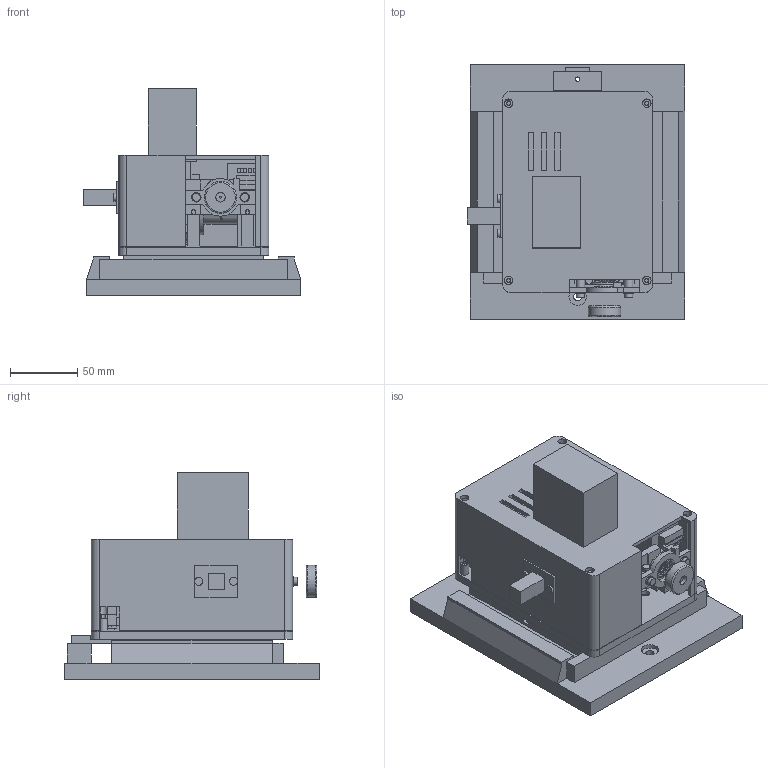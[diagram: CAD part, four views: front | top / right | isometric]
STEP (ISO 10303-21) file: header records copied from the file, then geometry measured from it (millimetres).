
FILE_DESCRIPTION(('Open CASCADE Model'),'2;1');
FILE_NAME('Open CASCADE Shape Model','2026-10-05T13:23:06',('Author'),( 'Open CASCADE'),'Open CASCADE STEP processor 7.8','Open CASCADE 7.8' ,'Unknown');
FILE_SCHEMA(('AUTOMOTIVE_DESIGN { 1 0 10303 214 1 1 1 1 }'));
Length unit declared in the file: millimetre
Products named in the file (94): Provisional_fuse_service; wall_dock; case_adapter; base; cover; guide_carrier; homing_collar; switch_mount; metal_eyelet_reference; motor_reference; shaft_reference; spool_reference; homing_stopper; outlet_backplate; outlet_clamp_bolt_0_reference; outlet_clamp_bolt_1_reference; guide_bolt_0_reference; washer_0_reference; spring_0_reference; guide_bolt_1_reference; washer_1_reference; spring_1_reference; switch_body_reference; switch_lever_reference; switch_roller_reference; encoder_mount; encoder_board_reference; encoder_chip_reference; encoder_lead_space_reference; encoder_node_holder; encoder_node_reference; encoder_usb_space_reference; encoder_magnet_cup; encoder_magnet_reference; drv8825_keeper_-1; drv8825_keeper_1; d24v10f5_keeper_-1; d24v10f5_keeper_1; capacitor_perimeter_keeper; electronics_carrier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
Assembly tree (93 placements, depth 2):
  Provisional_fuse_service
    wall_dock
    case_adapter
    base
    cover
    guide_carrier
    homing_collar
    switch_mount
    metal_eyelet_reference
    motor_reference
    shaft_reference
    spool_reference
    homing_stopper
    outlet_backplate
    outlet_clamp_bolt_0_reference
    outlet_clamp_bolt_1_reference
    guide_bolt_0_reference
    washer_0_reference
    spring_0_reference
    guide_bolt_1_reference
    washer_1_reference
    spring_1_reference
    switch_body_reference
    switch_lever_reference
    switch_roller_reference
    encoder_mount
    encoder_board_reference
    encoder_chip_reference
    encoder_lead_space_reference
    encoder_node_holder
    encoder_node_reference
    encoder_usb_space_reference
    encoder_magnet_cup
    encoder_magnet_reference
    drv8825_keeper_-1
    drv8825_keeper_1
    d24v10f5_keeper_-1
    d24v10f5_keeper_1
    capacitor_perimeter_keeper
    electronics_carrier
    microfit_input_panel
    fuse_service_support
    drv8825_board_reference
    drv8825_top_reference
    drv8825_underside_reference
    d24v10f5_board_reference
    d24v10f5_top_reference
    d24v10f5_underside_reference
    vmot_capacitor_reference
    fuseholder_reference
    microfit_panel_plug_reference
    microfit_external_mate_space_reference
    lower_lead_provisional
    upper_lead_provisional
    tray_head_-47.0_-44.0
    tray_shank_-47.0_-44.0
    tray_washer_-47.0_-44.0
    tray_nut_-47.0_-44.0
    tray_head_-10.0_-44.0
    tray_shank_-10.0_-44.0
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Bounding box: 162.5 x 190 x 154 mm (x, y, z)
Volume: 1095201 mm3; surface area: 374641.4 mm2
Topology: 93 solids, 93 shells, 1222 faces, 2894 edges, 1914 vertices
Faces by surface type: plane 906, cylinder 284, cone 28, torus 4
Full cylindrical faces by diameter (mm): 1.2 x1, 1.4 x1, 1.6 x2, 1.7 x5, 2 x2, 2.2 x4, 2.8 x20, 3 x24, 3.2 x4, 3.4 x52, 4 x6, 4.3 x3, 4.4 x5, 4.5 x1, 5.33 x2, 5.7 x2, 6 x30, 6.35 x3, 6.4 x11, 6.55 x1, 7 x8, 8 x5, 9 x1, 13 x3, 15.24 x1, 18.6 x1, 20 x1, 22.4 x1, 24 x1, 36 x2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
Entity records: 75092 total; most frequent: CARTESIAN_POINT 15379, DIRECTION 10600, LINE 6325, VECTOR 6325, ORIENTED_EDGE 5788, PCURVE 5788, DEFINITIONAL_REPRESENTATION 5788, EDGE_CURVE 2894
